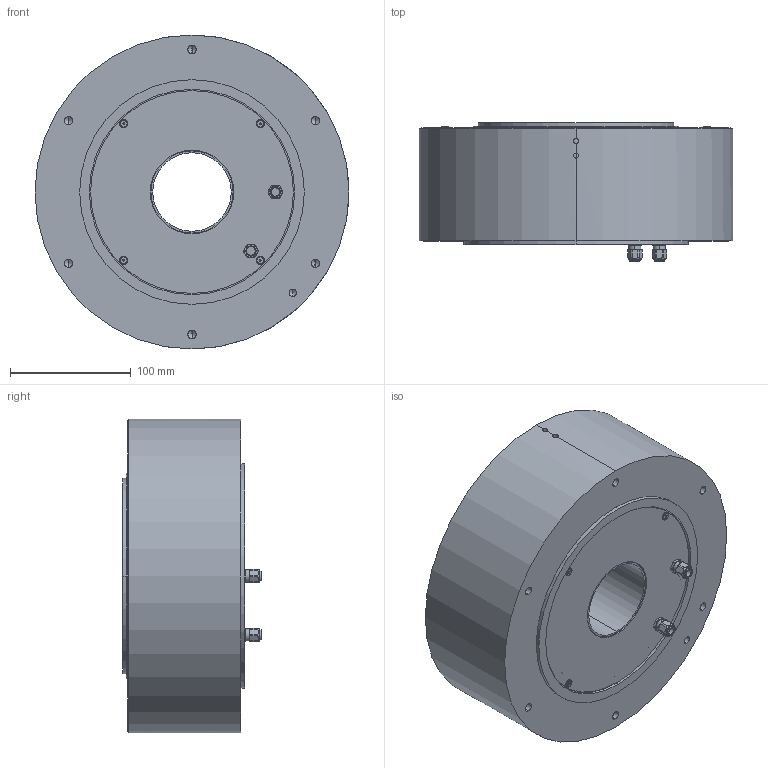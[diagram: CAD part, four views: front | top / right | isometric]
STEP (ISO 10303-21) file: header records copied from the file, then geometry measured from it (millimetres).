
FILE_DESCRIPTION (( 'STEP AP214' ), '1' );
FILE_NAME ('ND250-95-LSP(ABS).step', '2025-03-26T08:34:53', ( '' ), ( '' ), 'SwSTEP 2.0', 'SolidWorks 2024', '' );
FILE_SCHEMA (( 'AUTOMOTIVE_DESIGN' ));
Length unit declared in the file: millimetre
Products named in the file (1): ND250-95-LSP(ABS)
Bounding box: 260 x 114.6 x 260 mm (x, y, z)
Surface area: 415320.8 mm2 (no closed solid volume)
Topology: 0 solids, 17 shells, 613 faces, 1558 edges, 968 vertices
Faces by surface type: cylinder 357, cone 130, plane 86, sphere 20, torus 20
Entity records: 20030 total; most frequent: CARTESIAN_POINT 5308, DIRECTION 3126, ORIENTED_EDGE 2986, EDGE_CURVE 1494, AXIS2_PLACEMENT_3D 1296, VERTEX_POINT 968, EDGE_LOOP 715, CIRCLE 682
